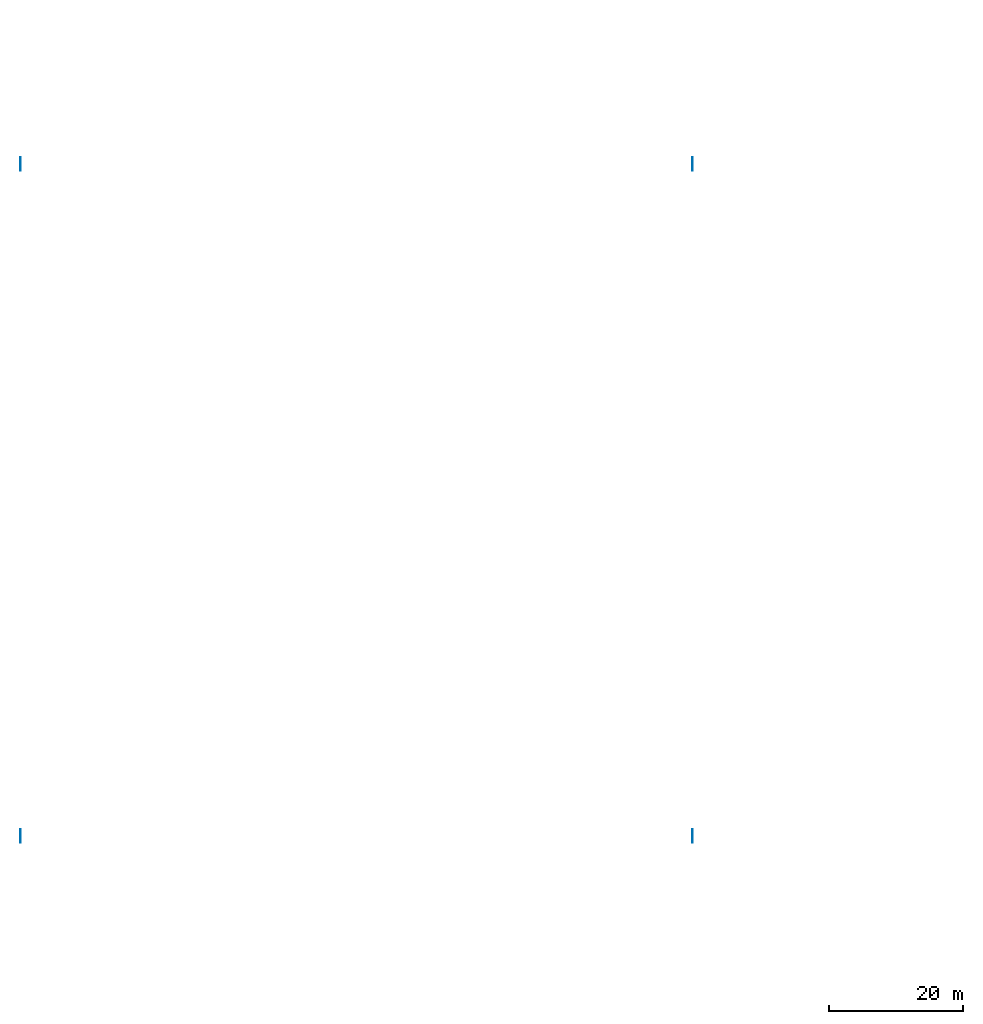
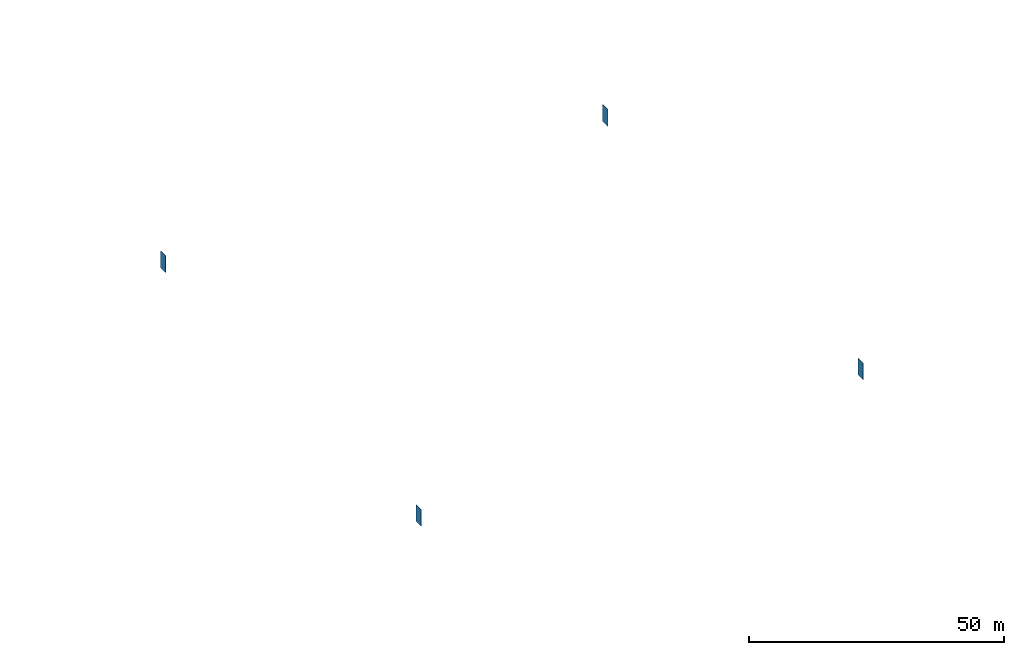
# One storey, part 38 of 164: 4 walls.
"""IFC2X3 building model written with IfcOpenShell, lengths in millimetres."""

from ifc_helpers import new_model, entity, si_unit, converted_unit, derived_unit, direction, frame, frame_2d, origin, place, context, subcontext, project, spatial, rectangle, extrude, material, layer, layer_set, layer_usage, type_object, element, save


model = new_model("IFC2X3")

# Units and contexts
model_context = context("Model", 3, precision=0.01, world=origin(), true_north=direction((6.12303176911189e-17, 1.0)))
body_context = subcontext(model_context, "Body", "Model", "MODEL_VIEW")
ifc_project = project(units=[si_unit("LENGTHUNIT", "METRE", prefix="MILLI"), si_unit("AREAUNIT", "SQUARE_METRE"), si_unit("VOLUMEUNIT", "CUBIC_METRE"), converted_unit("PLANEANGLEUNIT", "DEGREE", entity("IfcRatioMeasure", 0.0174532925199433), si_unit("PLANEANGLEUNIT", "RADIAN"), dimensions=[0, 0, 0, 0, 0, 0, 0]), si_unit("MASSUNIT", "GRAM", prefix="KILO"), derived_unit("MASSDENSITYUNIT", [(si_unit("MASSUNIT", "GRAM", prefix="KILO"), 1), (si_unit("LENGTHUNIT", "METRE"), -3)]), derived_unit("MOMENTOFINERTIAUNIT", [(si_unit("LENGTHUNIT", "METRE"), 4)]), si_unit("TIMEUNIT", "SECOND"), si_unit("FREQUENCYUNIT", "HERTZ"), si_unit("THERMODYNAMICTEMPERATUREUNIT", "DEGREE_CELSIUS"), derived_unit("THERMALTRANSMITTANCEUNIT", [(si_unit("MASSUNIT", "GRAM", prefix="KILO"), 1), (si_unit("THERMODYNAMICTEMPERATUREUNIT", "KELVIN"), -1), (si_unit("TIMEUNIT", "SECOND"), -3)]), derived_unit("VOLUMETRICFLOWRATEUNIT", [(si_unit("LENGTHUNIT", "METRE"), 3), (si_unit("TIMEUNIT", "SECOND"), -1)]), si_unit("ELECTRICCURRENTUNIT", "AMPERE"), si_unit("ELECTRICVOLTAGEUNIT", "VOLT"), si_unit("POWERUNIT", "WATT"), si_unit("FORCEUNIT", "NEWTON", prefix="KILO"), si_unit("ILLUMINANCEUNIT", "LUX"), si_unit("LUMINOUSFLUXUNIT", "LUMEN"), si_unit("LUMINOUSINTENSITYUNIT", "CANDELA"), derived_unit("USERDEFINED", [(si_unit("MASSUNIT", "GRAM", prefix="KILO"), -1), (si_unit("LENGTHUNIT", "METRE"), -2), (si_unit("TIMEUNIT", "SECOND"), 3), (si_unit("LUMINOUSFLUXUNIT", "LUMEN"), 1)]), derived_unit("LINEARVELOCITYUNIT", [(si_unit("LENGTHUNIT", "METRE"), 1), (si_unit("TIMEUNIT", "SECOND"), -1)]), si_unit("PRESSUREUNIT", "PASCAL"), derived_unit("USERDEFINED", [(si_unit("LENGTHUNIT", "METRE"), -2), (si_unit("MASSUNIT", "GRAM", prefix="KILO"), 1), (si_unit("TIMEUNIT", "SECOND"), -2)]), derived_unit("LINEARFORCEUNIT", [(si_unit("MASSUNIT", "GRAM", prefix="KILO"), 1), (si_unit("LENGTHUNIT", "METRE"), 1), (si_unit("TIMEUNIT", "SECOND"), -2), (si_unit("LENGTHUNIT", "METRE"), -1)]), derived_unit("PLANARFORCEUNIT", [(si_unit("MASSUNIT", "GRAM", prefix="KILO"), 1), (si_unit("LENGTHUNIT", "METRE"), 1), (si_unit("TIMEUNIT", "SECOND"), -2), (si_unit("LENGTHUNIT", "METRE"), -2)])], contexts=[model_context])

# Site, building, storey
site_placement = place(None, origin())
site = spatial("IfcSite", under=ifc_project, at=site_placement, Name="Default", CompositionType="ELEMENT")
building_placement = place(site_placement, origin())
building = spatial("IfcBuilding", under=site, at=building_placement, CompositionType="ELEMENT")
storey_placement = place(building_placement, origin())
storey = spatial("IfcBuildingStorey", under=building, at=storey_placement, Name="Level 1", CompositionType="ELEMENT", Elevation=0.0)

# Walls
ifc_material = material(Name="Default Wall")
ifc_layer = layer(ifc_material, 100.0)
ifc_layer_set = layer_set([ifc_layer], Name="Basic Wall:Generic - 100mm")
ifc_layer_usage_1 = layer_usage(ifc_layer_set, "AXIS2", "NEGATIVE", 50.0)
wall_type = type_object("IfcWallType", Name="Basic Wall:Generic - 100mm", PredefinedType="STANDARD", material=ifc_layer_set)
wall_1_placement = place(storey_placement, frame((50.0, 901000.0, 0.0), z_axis=(0.0, 0.0, 1.0), x_axis=(0.0, -1.0, 0.0)))
element("IfcWallStandardCase", 1, at=wall_1_placement, inside=storey, type_object=wall_type, material=ifc_layer_usage_1, Name="Basic Wall:Generic - 100mm", ObjectType="Basic Wall:Generic - 100mm", context=body_context, shape_type="SweptSolid", body=[
    extrude(rectangle(XDim=2000.0000000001, YDim=100.0, at=frame_2d((1000.00000000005, 0.0), x_axis=(-1.0, 0.0))), origin(), (0.0, 0.0, 1.0), 4000.0),
])
ifc_layer_usage_2 = layer_usage(ifc_layer_set, "AXIS2", "NEGATIVE", 50.0)
wall_2_placement = place(storey_placement, frame((100050.0, 901000.0, 0.0), z_axis=(0.0, 0.0, 1.0), x_axis=(0.0, -1.0, 0.0)))
element("IfcWallStandardCase", 2, at=wall_2_placement, inside=storey, type_object=wall_type, material=ifc_layer_usage_2, Name="Basic Wall:Generic - 100mm", ObjectType="Basic Wall:Generic - 100mm", context=body_context, shape_type="SweptSolid", body=[
    extrude(rectangle(XDim=2000.0000000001, YDim=100.000000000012, at=frame_2d((1000.00000000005, 1.60582658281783e-12), x_axis=(-1.0, 0.0))), origin(), (0.0, 0.0, 1.0), 4000.0),
])
ifc_layer_usage_3 = layer_usage(ifc_layer_set, "AXIS2", "NEGATIVE", 50.0)
wall_3_placement = place(storey_placement, frame((50.0, 1001000.0, 0.0), z_axis=(0.0, 0.0, 1.0), x_axis=(0.0, -1.0, 0.0)))
element("IfcWallStandardCase", 3, at=wall_3_placement, inside=storey, type_object=wall_type, material=ifc_layer_usage_3, Name="Basic Wall:Generic - 100mm", ObjectType="Basic Wall:Generic - 100mm", context=body_context, shape_type="SweptSolid", body=[
    extrude(rectangle(XDim=2000.0000000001, YDim=100.0, at=frame_2d((1000.00000000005, 0.0), x_axis=(-1.0, 0.0))), origin(), (0.0, 0.0, 1.0), 4000.0),
])
ifc_layer_usage_4 = layer_usage(ifc_layer_set, "AXIS2", "NEGATIVE", 50.0)
wall_4_placement = place(storey_placement, frame((100050.0, 1001000.0, 0.0), z_axis=(0.0, 0.0, 1.0), x_axis=(0.0, -1.0, 0.0)))
element("IfcWallStandardCase", 4, at=wall_4_placement, inside=storey, type_object=wall_type, material=ifc_layer_usage_4, Name="Basic Wall:Generic - 100mm", ObjectType="Basic Wall:Generic - 100mm", context=body_context, shape_type="SweptSolid", body=[
    extrude(rectangle(XDim=2000.0000000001, YDim=100.000000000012, at=frame_2d((1000.00000000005, 1.60582658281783e-12), x_axis=(-1.0, 0.0))), origin(), (0.0, 0.0, 1.0), 4000.0),
])

save(model, "model.ifc")
